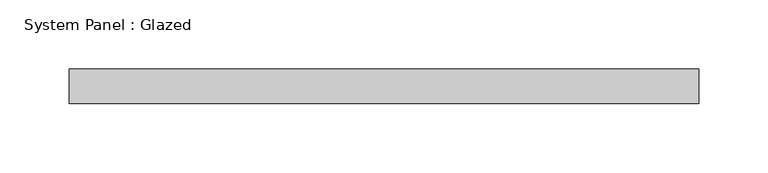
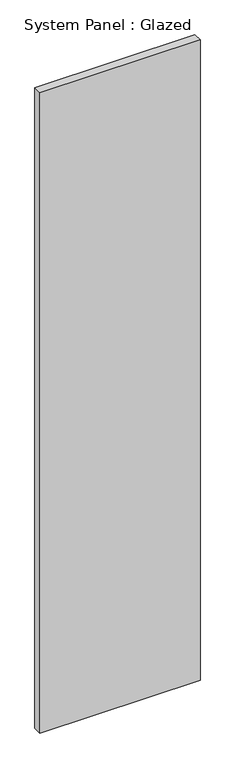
"""IFC4 building model written with IfcOpenShell, lengths in millimetres: plate geometry, System Panel : Glazed."""

from ifc_helpers import new_model, si_unit, origin, origin_with_axes, place, context, project, spatial, polyline, outline, extrude, source, transform, mapped, element, save


def system_panel_glazed_ff23e140(model_context):
    return source(origin(), model_context, "Body", "SweptSolid", [
        extrude(outline(polyline([(227.6287053, 24.5), (-227.6287053, 24.5), (-227.6287053, 49.5), (227.6287053, 49.5), (227.6287053, 24.5)])), origin_with_axes(), (0.0, 0.0, 1.0), 1925.0),
    ])


if __name__ == "__main__":
    model = new_model("IFC4")
    model_context = context("Model", 3, world=origin())
    ifc_project = project(units=[si_unit("LENGTHUNIT", "METRE", prefix="MILLI")], contexts=[model_context])
    site = spatial("IfcSite", under=ifc_project)
    building = spatial("IfcBuilding", under=site)
    placement = place(None, origin())
    system_panel_glazed_shape = system_panel_glazed_ff23e140(model_context)
    element("IfcPlate", 1, ObjectType="System Panel : Glazed", at=placement, inside=building, context=model_context, shape_type="MappedRepresentation", body=[
        mapped(system_panel_glazed_shape, transform((0.0, 0.0, 0.0), x_axis=(1.0, 0.0, 0.0), y_axis=(0.0, 1.0, 0.0), z_axis=(0.0, 0.0, 1.0))),
    ])
    save(model, "model.ifc")
